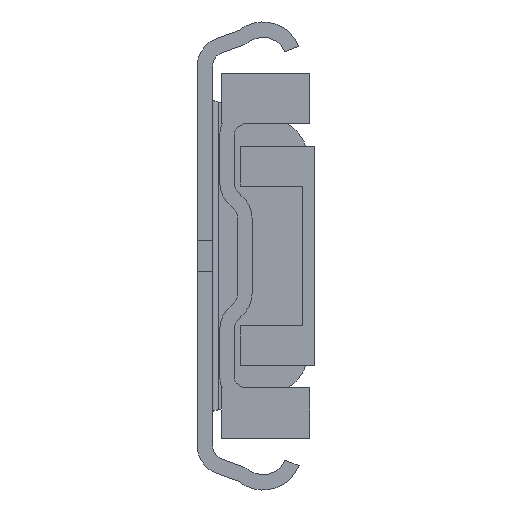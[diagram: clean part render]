
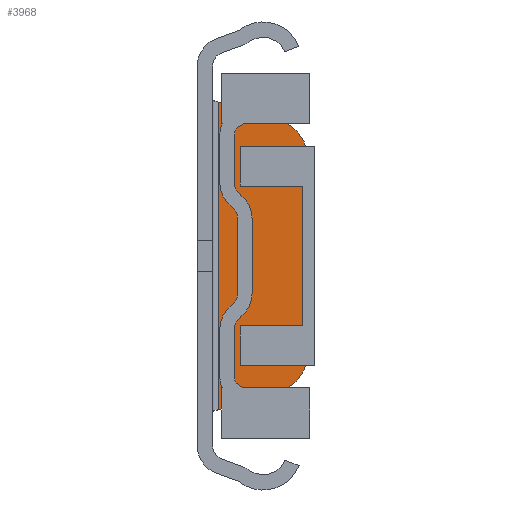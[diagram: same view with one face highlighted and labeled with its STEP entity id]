
A CAD part, front view. The second image highlights one B-rep face of the part: STEP entity #3968.
In plain terms, the highlighted planar face has unit normal (0, -1, 0).
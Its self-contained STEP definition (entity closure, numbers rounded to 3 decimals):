
#338=LINE('',#6826,#722);
#339=LINE('',#6831,#723);
#340=LINE('',#6835,#724);
#341=LINE('',#6837,#725);
#722=VECTOR('',#5654,1000.);
#723=VECTOR('',#5657,1000.);
#724=VECTOR('',#5660,1000.);
#725=VECTOR('',#5661,1000.);
#890=PLANE('',#4709);
#1746=ORIENTED_EDGE('',*,*,#2470,.F.);
#1747=ORIENTED_EDGE('',*,*,#2471,.F.);
#1748=ORIENTED_EDGE('',*,*,#2472,.F.);
#1749=ORIENTED_EDGE('',*,*,#2473,.F.);
#1750=ORIENTED_EDGE('',*,*,#2474,.F.);
#1751=ORIENTED_EDGE('',*,*,#2475,.F.);
#2470=EDGE_CURVE('',#2908,#2909,#338,.T.);
#2471=EDGE_CURVE('',#2910,#2908,#3136,.F.);
#2472=EDGE_CURVE('',#2911,#2910,#339,.T.);
#2473=EDGE_CURVE('',#2912,#2911,#3137,.F.);
#2474=EDGE_CURVE('',#2913,#2912,#340,.T.);
#2475=EDGE_CURVE('',#2909,#2913,#341,.T.);
#2908=VERTEX_POINT('',#6827);
#2909=VERTEX_POINT('',#6828);
#2910=VERTEX_POINT('',#6830);
#2911=VERTEX_POINT('',#6832);
#2912=VERTEX_POINT('',#6834);
#2913=VERTEX_POINT('',#6836);
#3136=CIRCLE('',#4710,8.);
#3137=CIRCLE('',#4711,8.);
#3380=EDGE_LOOP('',(#1746,#1747,#1748,#1749,#1750,#1751));
#3650=FACE_BOUND('',#3380,.T.);
#3968=ADVANCED_FACE('',(#3650),#890,.T.);
#4709=AXIS2_PLACEMENT_3D('',#6825,#5652,#5653);
#4710=AXIS2_PLACEMENT_3D('',#6829,#5655,#5656);
#4711=AXIS2_PLACEMENT_3D('',#6833,#5658,#5659);
#5652=DIRECTION('',(0.,-1.,0.));
#5653=DIRECTION('',(0.,0.,-1.));
#5654=DIRECTION('',(-0.966,0.,-0.259));
#5655=DIRECTION('',(0.,-1.,0.));
#5656=DIRECTION('',(0.,0.,-1.));
#5657=DIRECTION('',(0.,0.,-1.));
#5658=DIRECTION('',(0.,-1.,0.));
#5659=DIRECTION('',(0.,0.,-1.));
#5660=DIRECTION('',(0.966,0.,-0.259));
#5661=DIRECTION('',(0.,0.,1.));
#6825=CARTESIAN_POINT('',(12.9,1673.9,14.965));
#6826=CARTESIAN_POINT('',(22.316,1673.9,-20.174));
#6827=CARTESIAN_POINT('',(12.471,1673.9,-22.812));
#6828=CARTESIAN_POINT('',(3.5,1673.9,-25.216));
#6829=CARTESIAN_POINT('',(10.4,1673.9,-15.085));
#6830=CARTESIAN_POINT('',(18.4,1673.9,-15.085));
#6831=CARTESIAN_POINT('',(18.4,1673.9,14.965));
#6832=CARTESIAN_POINT('',(18.4,1673.9,15.085));
#6833=CARTESIAN_POINT('',(10.4,1673.9,15.085));
#6834=CARTESIAN_POINT('',(12.471,1673.9,22.812));
#6835=CARTESIAN_POINT('',(14.833,1673.9,22.179));
#6836=CARTESIAN_POINT('',(3.5,1673.9,25.216));
#6837=CARTESIAN_POINT('',(3.5,1673.9,-25.766));
